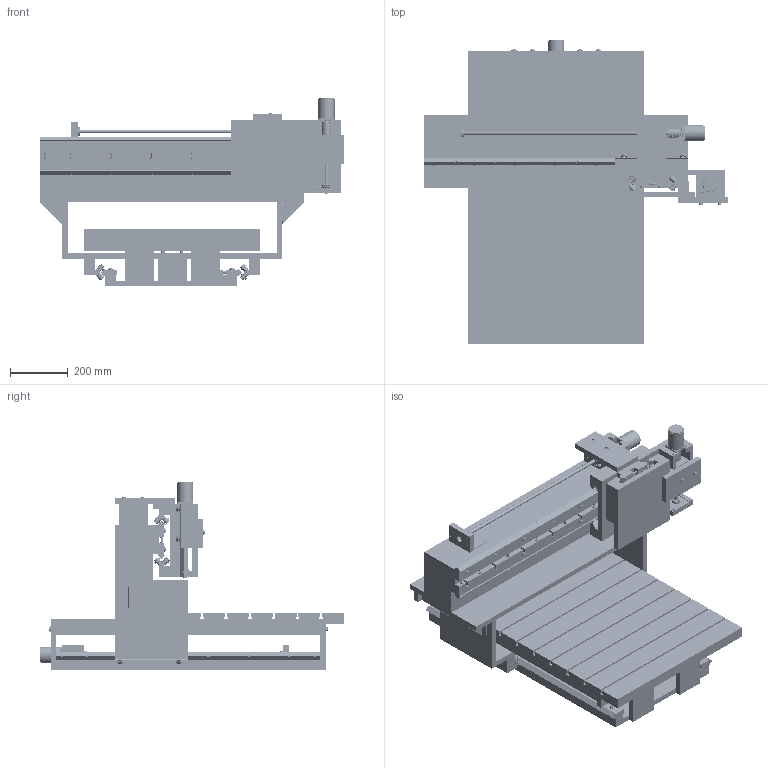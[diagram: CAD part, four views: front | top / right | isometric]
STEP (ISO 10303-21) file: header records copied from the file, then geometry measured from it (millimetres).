
FILE_DESCRIPTION(('STEP AP214'),'1');
FILE_NAME('C:/Users/dbailey/Documents/Punch!/ViaCAD Pro/FlyingGantryMachine.stp','2016-02-06T19:58:46',(''),(''),'Spatial InterOp 3D',' ',' ');
FILE_SCHEMA(('automotive_design'));
Length unit declared in the file: inch
Products named in the file (1095): 1; 2; 3; 4; 5; 6; 7; 8; 9; 10; 11; 12; 13; 14; 15; 16; 17; 18; 19; 20; 21; 22; 23; 24; RB36; 25; 26; 27; 28; 29; 30; 31; 32; 33; 34; 35; 36; 37; 38; 39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
Bounding box: 1050.82 x 1054.1 x 651.1 mm (x, y, z)
Volume: 66756769.7 mm3; surface area: 9724594.9 mm2
Topology: 744 solids, 744 shells, 9875 faces, 23918 edges, 15889 vertices
Faces by surface type: cylinder 4602, plane 4009, cone 862, bspline 400, extrusion 2
Entity records: 565344 total; most frequent: CARTESIAN_POINT 231532, DIRECTION 50109, ORIENTED_EDGE 47064, EDGE_CURVE 23532, AXIS2_PLACEMENT_3D 19007, VERTEX_POINT 15484, VECTOR 12095, LINE 12093
